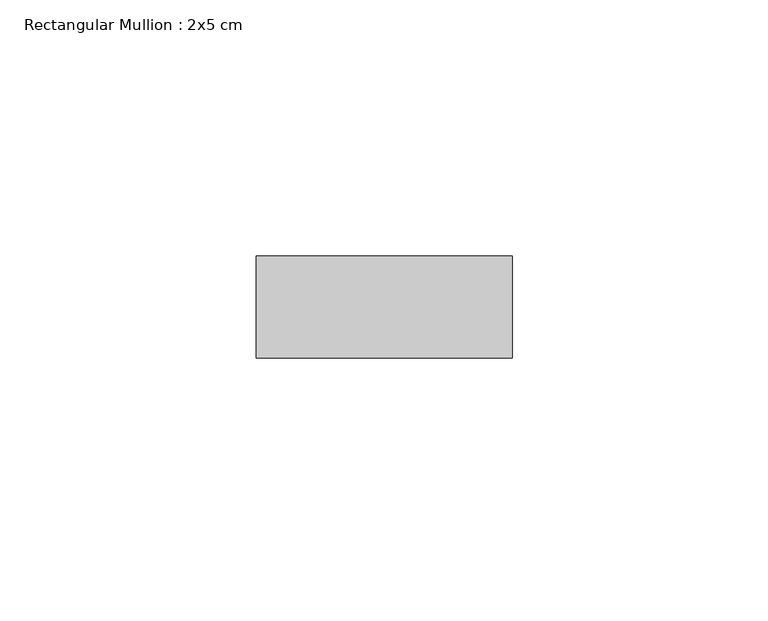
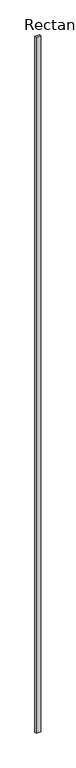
"""IFC4 building model written with IfcOpenShell, lengths in millimetres: member geometry, Rectangular Mullion : 2x5 cm."""

from ifc_helpers import new_model, si_unit, frame, origin, place, context, project, spatial, polyline, outline, extrude, source, transform, mapped, element, save


def rectangular_mullion_2x5_cm_649b951e(model_context):
    return source(origin(), model_context, "Body", "SweptSolid", [
        extrude(outline(polyline([(50.0, 20.0), (50.0, 0.0), (0.0, 0.0), (0.0, 20.0), (50.0, 20.0)])), frame((0.0, 0.0, -7756.848374), z_axis=(0.0, 0.0, 1.0), x_axis=(1.0, 0.0, 0.0)), (0.0, 0.0, 1.0), 7756.848374),
    ])


if __name__ == "__main__":
    model = new_model("IFC4")
    model_context = context("Model", 3, world=origin())
    ifc_project = project(units=[si_unit("LENGTHUNIT", "METRE", prefix="MILLI")], contexts=[model_context])
    site = spatial("IfcSite", under=ifc_project)
    building = spatial("IfcBuilding", under=site)
    placement = place(None, origin())
    rectangular_mullion_2x5_cm_shape = rectangular_mullion_2x5_cm_649b951e(model_context)
    element("IfcMember", 1, ObjectType="Rectangular Mullion : 2x5 cm", at=placement, inside=building, context=model_context, shape_type="MappedRepresentation", body=[
        mapped(rectangular_mullion_2x5_cm_shape, transform((0.0, 0.0, 0.0), x_axis=(1.0, 0.0, 0.0), y_axis=(0.0, 1.0, 0.0), z_axis=(0.0, 0.0, 1.0))),
    ])
    save(model, "model.ifc")
